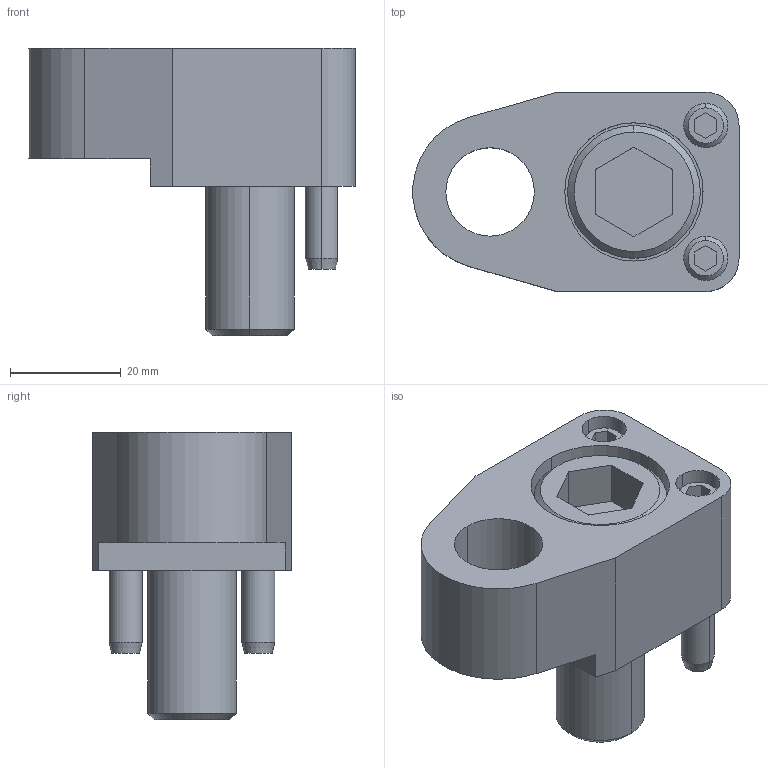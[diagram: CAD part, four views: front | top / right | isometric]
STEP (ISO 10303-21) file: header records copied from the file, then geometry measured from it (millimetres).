
FILE_DESCRIPTION(/* description */ (''),/* implementation_level */ '2;1');
FILE_NAME(/* name */ '3d_spfrs16_02793_r00.stp',/* time_stamp */ '2011-01-10T14:10:11+09:00',/* author */ ('MISUMI'),/* organization */ (''),/* preprocessor_version */ 'ST-DEVELOPER v11',/* originating_system */ 'UGS - NX 5.0',/* authorisation */ '');
FILE_SCHEMA (('CONFIG_CONTROL_DESIGN'));
Length unit declared in the file: millimetre
Products named in the file (1): 3d_spfrs16_02793_r00
Bounding box: 58.95 x 36 x 52 mm (x, y, z)
Volume: 42720.3 mm3; surface area: 16934.8 mm2
Topology: 6 solids, 6 shells, 111 faces, 246 edges, 157 vertices
Faces by surface type: plane 50, cylinder 39, cone 22
Entity records: 3208 total; most frequent: CARTESIAN_POINT 568, DIRECTION 566, ORIENTED_EDGE 492, EDGE_CURVE 246, AXIS2_PLACEMENT_3D 213, VERTEX_POINT 157, LINE 140, VECTOR 140
